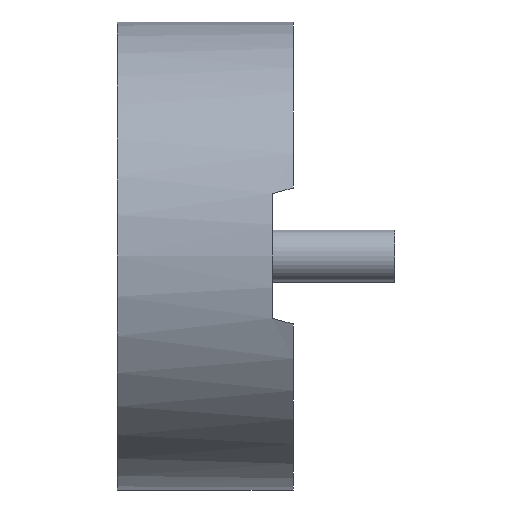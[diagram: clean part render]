
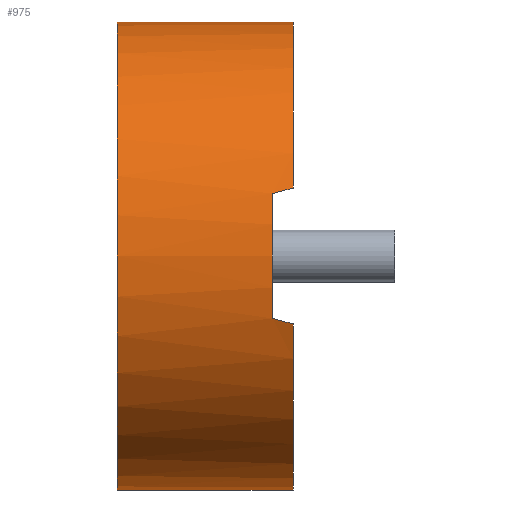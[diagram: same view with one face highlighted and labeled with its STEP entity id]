
A CAD part, left-side view. The second image highlights one B-rep face of the part: STEP entity #975.
In plain terms, the highlighted cylindrical face has radius 14.287 mm (diameter 28.575 mm), a partial arc.
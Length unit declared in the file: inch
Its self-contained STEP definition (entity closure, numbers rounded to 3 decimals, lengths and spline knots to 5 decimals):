
#17 = CIRCLE ( 'NONE', #522, 0.5625 ) ;
#57 = CIRCLE ( 'NONE', #1197, 0.5625 ) ;
#105 = AXIS2_PLACEMENT_3D ( 'NONE', #852, #762, #309 ) ;
#141 = FACE_OUTER_BOUND ( 'NONE', #1010, .T. ) ;
#143 = CARTESIAN_POINT ( 'NONE',  ( -0.5396, 0.01661, -0.15895 ) ) ;
#172 = ORIENTED_EDGE ( 'NONE', *, *, #184, .F. ) ;
#184 = EDGE_CURVE ( 'NONE', #330, #1029, #1169, .T. ) ;
#187 = EDGE_CURVE ( 'NONE', #603, #566, #57, .T. ) ;
#195 = CARTESIAN_POINT ( 'NONE',  ( -0.54089, 0.03327, -0.15448 ) ) ;
#211 = CARTESIAN_POINT ( 'NONE',  ( 0., 0.423, 0.5625 ) ) ;
#214 = CARTESIAN_POINT ( 'NONE',  ( 0., 0.423, -0.5625 ) ) ;
#216 = EDGE_CURVE ( 'NONE', #566, #1024, #428, .T. ) ;
#284 = CARTESIAN_POINT ( 'NONE',  ( 0., 0.423, 0. ) ) ;
#295 = EDGE_CURVE ( 'NONE', #588, #330, #17, .T. ) ;
#306 = CARTESIAN_POINT ( 'NONE',  ( -0.53824, 0., 0.1634 ) ) ;
#309 = DIRECTION ( 'NONE',  ( 0., 0., -1. ) ) ;
#330 = VERTEX_POINT ( 'NONE', #211 ) ;
#361 = CARTESIAN_POINT ( 'NONE',  ( 0., 0.423, 0.5625 ) ) ;
#368 = EDGE_CURVE ( 'NONE', #1062, #603, #857, .T. ) ;
#428 =( BOUNDED_CURVE ( )  B_SPLINE_CURVE ( 3, ( #652, #1035, #1091, #1093 ),
 .UNSPECIFIED., .F., .T. ) 
 B_SPLINE_CURVE_WITH_KNOTS ( ( 4, 4 ),
 ( 4.98232, 5.00713 ),
 .UNSPECIFIED. ) 
 CURVE ( )  GEOMETRIC_REPRESENTATION_ITEM ( )  RATIONAL_B_SPLINE_CURVE ( ( 1., 1., 1., 1. ) ) 
 REPRESENTATION_ITEM ( '' )  );
#442 = CARTESIAN_POINT ( 'NONE',  ( 0., 0.05, 0. ) ) ;
#497 = CARTESIAN_POINT ( 'NONE',  ( 0., 0., 0.5625 ) ) ;
#522 = AXIS2_PLACEMENT_3D ( 'NONE', #284, #1142, #1153 ) ;
#537 = DIRECTION ( 'NONE',  ( 0., 0., 1. ) ) ;
#538 = DIRECTION ( 'NONE',  ( 0., 1., 0. ) ) ;
#541 = CARTESIAN_POINT ( 'NONE',  ( 0., 0., 0. ) ) ;
#556 = DIRECTION ( 'NONE',  ( 0., 0., 1. ) ) ;
#557 = CARTESIAN_POINT ( 'NONE',  ( 0., 0., 0. ) ) ;
#564 = ORIENTED_EDGE ( 'NONE', *, *, #216, .T. ) ;
#566 = VERTEX_POINT ( 'NONE', #796 ) ;
#578 = DIRECTION ( 'NONE',  ( 0., 1., 0. ) ) ;
#588 = VERTEX_POINT ( 'NONE', #740 ) ;
#591 = EDGE_CURVE ( 'NONE', #856, #1062, #953, .T. ) ;
#603 = VERTEX_POINT ( 'NONE', #1228 ) ;
#614 = DIRECTION ( 'NONE',  ( 0., 1., 0. ) ) ;
#644 = CARTESIAN_POINT ( 'NONE',  ( 0., 0., -0.5625 ) ) ;
#649 = DIRECTION ( 'NONE',  ( 0., 0., 1. ) ) ;
#652 = CARTESIAN_POINT ( 'NONE',  ( -0.54213, 0.05, 0.15 ) ) ;
#722 = DIRECTION ( 'NONE',  ( 0., -1., 0. ) ) ;
#740 = CARTESIAN_POINT ( 'NONE',  ( 0., 0.423, -0.5625 ) ) ;
#757 = EDGE_CURVE ( 'NONE', #588, #856, #926, .T. ) ;
#762 = DIRECTION ( 'NONE',  ( 0., -1., 0. ) ) ;
#776 = CARTESIAN_POINT ( 'NONE',  ( -0.53824, 0., -0.1634 ) ) ;
#796 = CARTESIAN_POINT ( 'NONE',  ( -0.54213, 0.05, 0.15 ) ) ;
#813 = AXIS2_PLACEMENT_3D ( 'NONE', #541, #538, #537 ) ;
#852 = CARTESIAN_POINT ( 'NONE',  ( 0., 0.423, 0. ) ) ;
#856 = VERTEX_POINT ( 'NONE', #644 ) ;
#857 =( BOUNDED_CURVE ( )  B_SPLINE_CURVE ( 3, ( #776, #143, #195, #1200 ),
 .UNSPECIFIED., .F., .T. ) 
 B_SPLINE_CURVE_WITH_KNOTS ( ( 4, 4 ),
 ( 1.27606, 1.30086 ),
 .UNSPECIFIED. ) 
 CURVE ( )  GEOMETRIC_REPRESENTATION_ITEM ( )  RATIONAL_B_SPLINE_CURVE ( ( 1., 1., 1., 1. ) ) 
 REPRESENTATION_ITEM ( '' )  );
#875 = ORIENTED_EDGE ( 'NONE', *, *, #187, .T. ) ;
#897 = AXIS2_PLACEMENT_3D ( 'NONE', #557, #578, #556 ) ;
#901 = CARTESIAN_POINT ( 'NONE',  ( -0.53824, 0., -0.1634 ) ) ;
#916 = CIRCLE ( 'NONE', #897, 0.5625 ) ;
#926 = LINE ( 'NONE', #214, #1039 ) ;
#932 = EDGE_CURVE ( 'NONE', #1024, #1029, #916, .T. ) ;
#953 = CIRCLE ( 'NONE', #813, 0.5625 ) ;
#975 = ADVANCED_FACE ( 'NONE', ( #141 ), #1271, .T. ) ;
#995 = VECTOR ( 'NONE', #1097, 39.37008 ) ;
#1010 = EDGE_LOOP ( 'NONE', ( #172, #1042, #1065, #1174, #1059, #875, #564, #1092 ) ) ;
#1024 = VERTEX_POINT ( 'NONE', #306 ) ;
#1029 = VERTEX_POINT ( 'NONE', #497 ) ;
#1035 = CARTESIAN_POINT ( 'NONE',  ( -0.54089, 0.03327, 0.15448 ) ) ;
#1039 = VECTOR ( 'NONE', #722, 39.37008 ) ;
#1042 = ORIENTED_EDGE ( 'NONE', *, *, #295, .F. ) ;
#1059 = ORIENTED_EDGE ( 'NONE', *, *, #368, .T. ) ;
#1062 = VERTEX_POINT ( 'NONE', #901 ) ;
#1065 = ORIENTED_EDGE ( 'NONE', *, *, #757, .T. ) ;
#1091 = CARTESIAN_POINT ( 'NONE',  ( -0.5396, 0.01661, 0.15895 ) ) ;
#1092 = ORIENTED_EDGE ( 'NONE', *, *, #932, .T. ) ;
#1093 = CARTESIAN_POINT ( 'NONE',  ( -0.53824, 0., 0.1634 ) ) ;
#1097 = DIRECTION ( 'NONE',  ( 0., -1., 0. ) ) ;
#1142 = DIRECTION ( 'NONE',  ( 0., 1., 0. ) ) ;
#1153 = DIRECTION ( 'NONE',  ( 0., 0., 1. ) ) ;
#1169 = LINE ( 'NONE', #361, #995 ) ;
#1174 = ORIENTED_EDGE ( 'NONE', *, *, #591, .T. ) ;
#1197 = AXIS2_PLACEMENT_3D ( 'NONE', #442, #614, #649 ) ;
#1200 = CARTESIAN_POINT ( 'NONE',  ( -0.54213, 0.05, -0.15 ) ) ;
#1228 = CARTESIAN_POINT ( 'NONE',  ( -0.54213, 0.05, -0.15 ) ) ;
#1271 = CYLINDRICAL_SURFACE ( 'NONE', #105, 0.5625 ) ;
